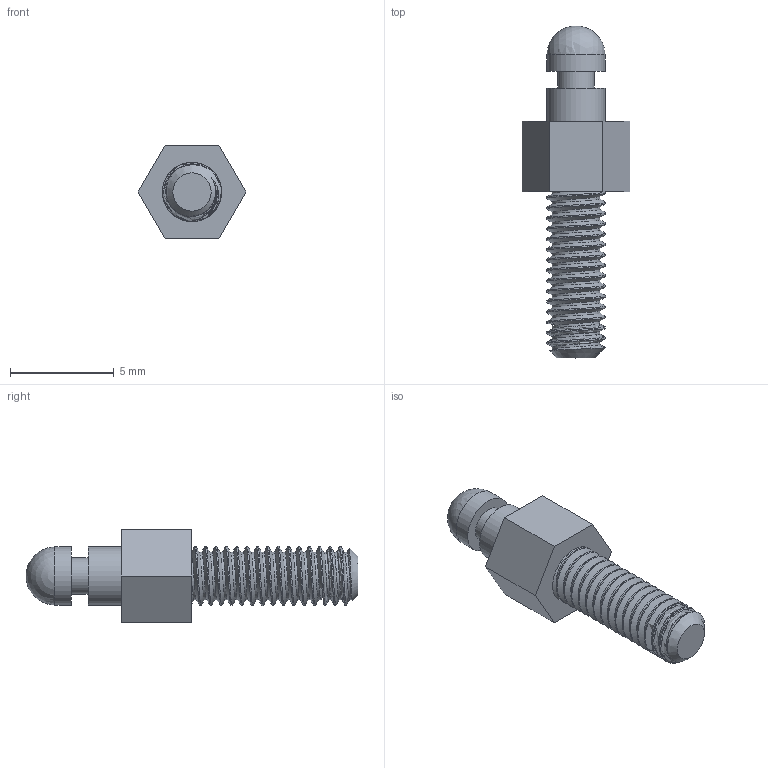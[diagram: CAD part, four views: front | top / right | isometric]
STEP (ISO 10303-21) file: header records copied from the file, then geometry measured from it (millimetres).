
FILE_DESCRIPTION (( 'STEP AP203' ), '1' );
FILE_NAME ('QLOCKPOST-3.STEP', '2026-06-16T12:29:50', ( '' ), ( '' ), 'SwSTEP 2.0', 'SolidWorks 2020', '' );
FILE_SCHEMA (( 'CONFIG_CONTROL_DESIGN' ));
Length unit declared in the file: millimetre
Products named in the file (1): QLOCKPOST-3
Bounding box: 5.2 x 15.99 x 4.5 mm (x, y, z)
Volume: 122.1 mm3; surface area: 275.6 mm2
Topology: 1 solids, 1 shells, 22 faces, 51 edges, 33 vertices
Faces by surface type: plane 12, bspline 4, cylinder 4, sphere 1, cone 1
Full cylindrical faces by diameter (mm): 1.75 x1, 2.8 x2
Entity records: 3709 total; most frequent: CARTESIAN_POINT 3210, ORIENTED_EDGE 82, DIRECTION 80, EDGE_CURVE 41, EDGE_LOOP 30, VERTEX_POINT 29, AXIS2_PLACEMENT_3D 29, FACE_OUTER_BOUND 25
